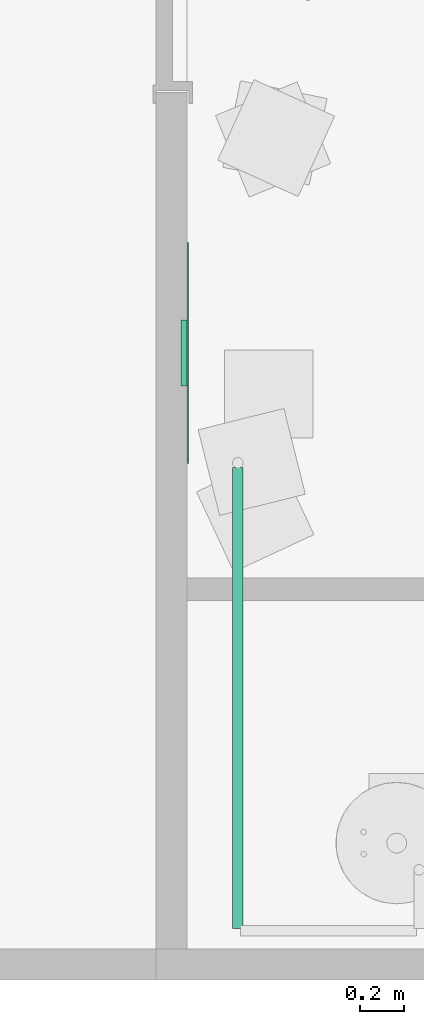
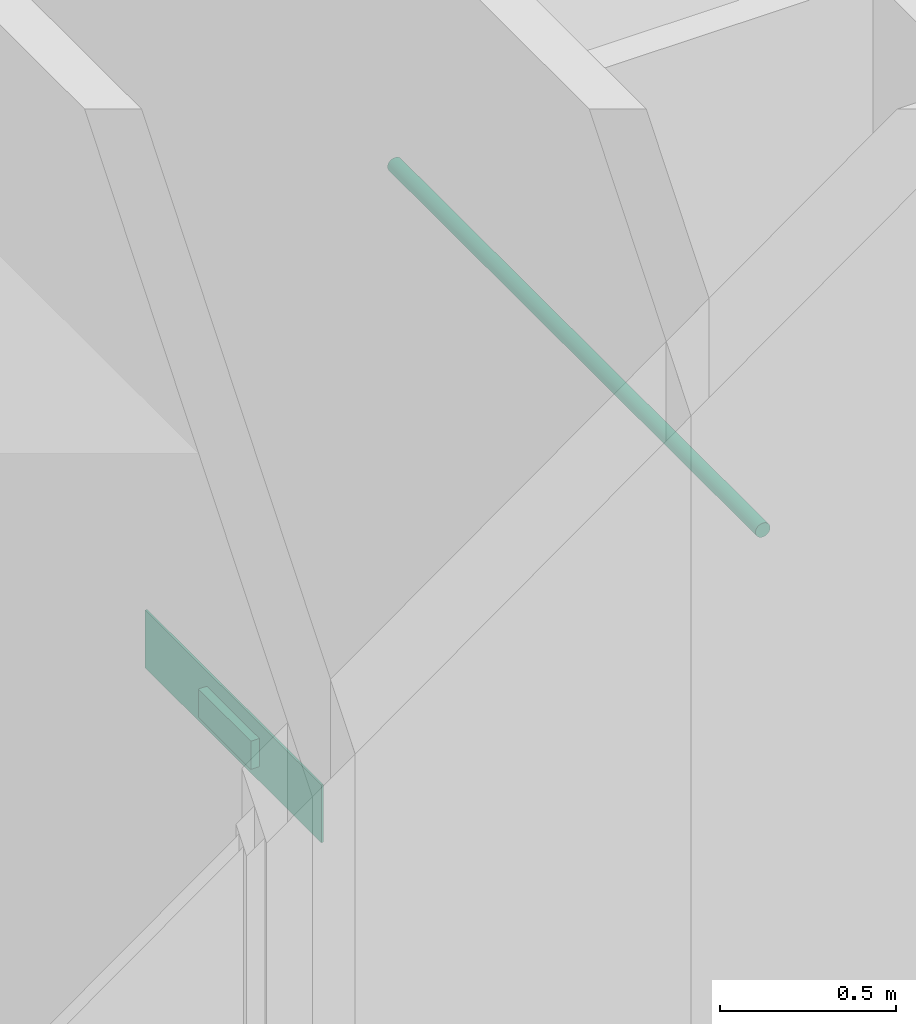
# One storey, part 34 of 71: 1 air terminal, 1 pipe segment.
"""IFC4 building model written with IfcOpenShell, lengths in centimetres."""

from ifc_helpers import new_model, entity, si_unit, converted_unit, derived_unit, direction, frame, origin, place, context, subcontext, project, spatial, arc, indexed_curve, outline, extrude, source, transform, mapped, material, constituent, constituent_set, type_object, type_shapes, element, save


model = new_model("IFC4")

# Units and contexts
model_context = context("Model", 3, precision=0.001, world=origin(), true_north=direction((6.123233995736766e-17, 1.0)))
body_context = subcontext(model_context, "Body", "Model", "MODEL_VIEW")
ifc_project = project(units=[si_unit("LENGTHUNIT", "METRE", prefix="CENTI"), si_unit("AREAUNIT", "SQUARE_METRE"), si_unit("VOLUMEUNIT", "CUBIC_METRE"), derived_unit("THERMALTRANSMITTANCEUNIT", [(si_unit("MASSUNIT", "GRAM", prefix="KILO"), 1), (si_unit("THERMODYNAMICTEMPERATUREUNIT", "KELVIN"), -1), (si_unit("TIMEUNIT", "SECOND"), -3)]), converted_unit("PLANEANGLEUNIT", "DEGREE", entity("IfcPlaneAngleMeasure", 0.017453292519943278), si_unit("PLANEANGLEUNIT", "RADIAN"), dimensions=[0, 0, 0, 0, 0, 0, 0]), derived_unit("MASSDENSITYUNIT", [(si_unit("MASSUNIT", "GRAM", prefix="KILO"), 1), (si_unit("LENGTHUNIT", "METRE"), -3)]), derived_unit("VAPORPERMEABILITYUNIT", [(si_unit("LENGTHUNIT", "METRE"), -1), (si_unit("TIMEUNIT", "SECOND"), 1)]), derived_unit("USERDEFINED", [(si_unit("MASSUNIT", "GRAM", prefix="KILO"), 1), (si_unit("TIMEUNIT", "SECOND"), -3), (si_unit("LENGTHUNIT", "METRE"), 3), (si_unit("ELECTRICCURRENTUNIT", "AMPERE"), -2)]), derived_unit("SPECIFICHEATCAPACITYUNIT", [(si_unit("THERMODYNAMICTEMPERATUREUNIT", "KELVIN"), -1), (si_unit("LENGTHUNIT", "METRE"), 2), (si_unit("TIMEUNIT", "SECOND"), -2)]), derived_unit("THERMALCONDUCTANCEUNIT", [(si_unit("MASSUNIT", "GRAM", prefix="KILO"), 1), (si_unit("THERMODYNAMICTEMPERATUREUNIT", "KELVIN"), -1), (si_unit("TIMEUNIT", "SECOND"), -3), (si_unit("LENGTHUNIT", "METRE"), 1)]), si_unit("PRESSUREUNIT", "PASCAL"), derived_unit("MODULUSOFELASTICITYUNIT", [(si_unit("MASSUNIT", "GRAM", prefix="KILO"), 1), (si_unit("LENGTHUNIT", "METRE"), -1), (si_unit("TIMEUNIT", "SECOND"), -2)]), derived_unit("THERMALEXPANSIONCOEFFICIENTUNIT", [(si_unit("THERMODYNAMICTEMPERATUREUNIT", "KELVIN"), -1)])], contexts=[model_context])

# Site, building, storey, space
site_placement = place(None, origin())
site = spatial("IfcSite", under=ifc_project, at=site_placement, Name="Default", CompositionType="ELEMENT")
building_placement = place(site_placement, origin())
building = spatial("IfcBuilding", under=site, at=building_placement, Name="IDS Escape Game Building", CompositionType="ELEMENT")
storey_placement = place(building_placement, frame((0.0, 0.0, 1200.0)))
storey = spatial("IfcBuildingStorey", under=building, at=storey_placement, Name="03_Third Floor", CompositionType="ELEMENT", Elevation=1200.0)
space_placement = place(storey_placement, origin())
space = spatial("IfcSpace", under=storey, at=space_placement, Name="111", CompositionType="ELEMENT", PredefinedType="NOTDEFINED")

# Air terminal
ifc_material_1 = material(Name="TB_LVC_referentievlak_00_gen_BERSnl", Category="BE Default")
ifc_constituent_1 = constituent(ifc_material_1, Name="TB_LVC_referentievlak_00_gen_BERSnl", Category="BE Default", fraction=0.00014157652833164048)
ifc_material_2 = material(Name="ARC_FME.h2_staal_00_gen_BERSnl", Category="h - metaal")
ifc_constituent_2 = constituent(ifc_material_2, Name="ARC_FME.h2_staal_00_gen_BERSnl", Category="h - metaal", fraction=0.9998584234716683)
ifc_constituent_set_1 = constituent_set(constituents=[ifc_constituent_1, ifc_constituent_2])
ifc_constituent_3 = constituent(ifc_material_1, Name="BE Referentievlak", Category="BE Default", fraction=0.00014157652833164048)
ifc_constituent_4 = constituent(ifc_material_2, Name="Terminals", Category="h - metaal", fraction=0.9998584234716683)
ifc_constituent_set_2 = constituent_set(constituents=[ifc_constituent_3, ifc_constituent_4])
air_terminal_type = type_object("IfcAirTerminalType", Name="TB_57_AIR_FB_aanzuigrooster - 1 rechthoekige aansluiting - calculated flow_gen_BERSnl:Air Terminal - Exhaust", PredefinedType="GRILLE", material=ifc_constituent_set_2)
shared_shape = source(origin(), body_context, "Body", "SweptSolid", [
    extrude(outline(indexed_curve([(-0.5, -2.0290176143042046e-15), (6.8507733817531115e-16, -0.5000000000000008), (0.5, 2.0290176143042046e-15), (-5.361679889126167e-16, 0.49999999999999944)], segments=[arc(1, 2, 3), arc(3, 4, 1)], self_intersect=False)), frame((0.0, 0.0, 0.0), z_axis=(1.7453292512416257e-05, 0.0, 1.0), x_axis=(0.0, 1.0, 0.0)), (0.0, 0.0, 1.0), 0.09999999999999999),
    extrude(outline(indexed_curve([(-14.900000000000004, -4.9), (14.900000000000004, -4.9), (14.900000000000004, 4.9), (-14.900000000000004, 4.9), (-14.900000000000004, -4.9)], self_intersect=False)), frame((-4.886921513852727e-05, 0.0, -2.7999999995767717)), (0.0, 0.0, 1.0), 2.7999999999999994),
    extrude(outline(indexed_curve([(-50.0, -10.0), (50.0, -10.0), (50.0, 10.0), (-50.0, 10.0), (-50.0, -10.0)], self_intersect=False)), frame((0.0, 0.0, 0.0), z_axis=(0.0, 0.0, 1.0), x_axis=(-1.0, 0.0, 0.0)), (0.0, 0.0, 1.0), 0.6999999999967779),
])
type_shapes(air_terminal_type, [shared_shape])
air_terminal_placement = place(space_placement, frame((3697.0, 283.0, 24.0), z_axis=(1.0, 0.0, 0.0), x_axis=(0.0, 1.0, 0.0)))
element("IfcAirTerminal", 1, at=air_terminal_placement, inside=space, type_object=air_terminal_type, material=ifc_constituent_set_1, Name="TB_57_AIR_FB_aanzuigrooster - 1 rechthoekige aansluiting - calculated flow_gen_BERSnl:Air Terminal - Exhaust", ObjectType="TB_57_AIR_FB_aanzuigrooster - 1 rechthoekige aansluiting - calculated flow_gen_BERSnl:Air Terminal - Exhaust", PredefinedType="GRILLE", context=body_context, shape_type="MappedRepresentation", body=[
    mapped(shared_shape, transform((0.0, 0.0, 0.0), scale=1.0)),
])

# Pipe segment
pipe_segment_type = type_object("IfcPipeSegmentType", Name="Pipe Types:Piping Aluminum", PredefinedType="NOTDEFINED")
pipe_segment_placement = place(storey_placement, origin())
element("IfcPipeSegment", 2, at=pipe_segment_placement, inside=storey, type_object=pipe_segment_type, Name="Pipe Types:Piping Aluminum", ObjectType="Pipe Types:Piping Aluminum", PredefinedType="NOTDEFINED", context=body_context, shape_type="SweptSolid", body=[
    extrude(outline(indexed_curve([(2.412999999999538, 0.0), (1.7062486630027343, 1.7062486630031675), (-4.331468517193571e-13, 2.412999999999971), (-1.7062486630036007, 1.7062486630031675), (-2.4130000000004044, 0.0), (-1.7062486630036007, -1.7062486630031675), (-4.331468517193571e-13, -2.412999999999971), (1.7062486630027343, -1.7062486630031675)], segments=[arc(1, 2, 3), arc(3, 4, 5), arc(5, 6, 7), arc(7, 8, 1)], self_intersect=False)), frame((3720.0467168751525, 22.36482792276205, 242.0), z_axis=(0.0, 1.0, 0.0), x_axis=(1.0, 0.0, 0.0)), (0.0, 0.0, 1.0), 208.80000000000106),
])

save(model, "model.ifc")
